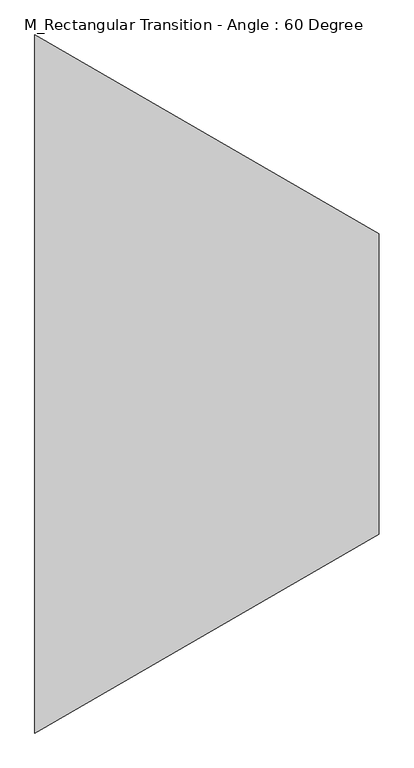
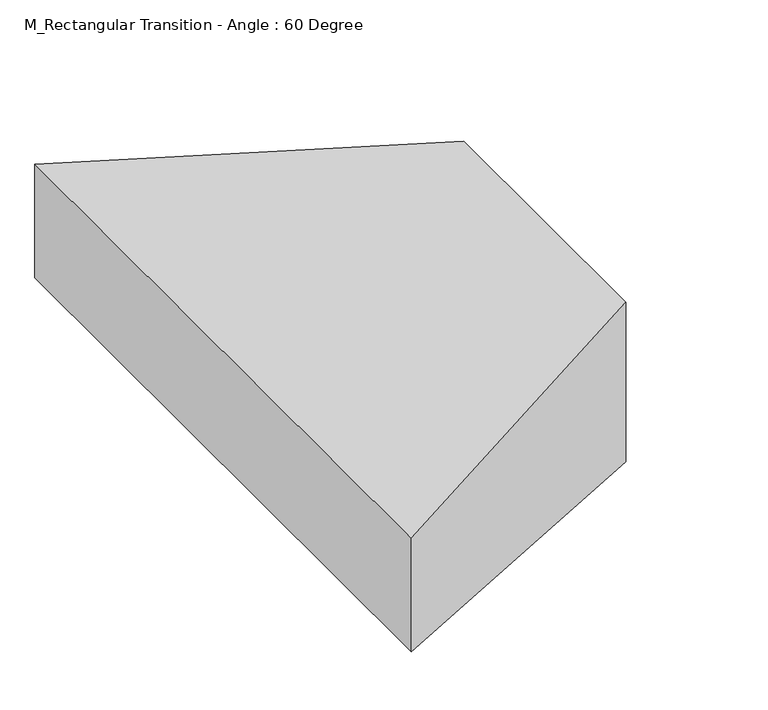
"""IFC4 building model written with IfcOpenShell, lengths in millimetres: duct fitting geometry, M_Rectangular Transition - Angle : 60 Degree."""

import ifcopenshell
import ifcopenshell.guid

model = None  # the IFC model being written
_history = None  # IfcOwnerHistory: only IFC2X3 demands one
_inside = {}  # id of a spatial element -> (the spatial element, [elements in it])
_under = {}  # id of a project, library or spatial element -> (it, [spatial elements below it])
_declared = {}  # id of a project -> (the project, [libraries it declares])
_typed = {}  # id of a type object -> (the type object, [elements of that type])
_made_of = {}  # id of a material, layer set ... -> (it, [elements and type objects made of it])


def new_model(schema):
    """Start an empty IFC model of exactly this schema.

    Asked for "IFC4X3", IfcOpenShell would pick the latest addendum, in which some entities
    have other attributes; the version numbers below select the first issue.
    IFC2X3 requires an IfcOwnerHistory on every rooted entity: one is made here for all.
    """
    global model, _history
    if schema == "IFC4X3":
        model = ifcopenshell.file(schema_version=(4, 3, 0, 0))
    else:
        model = ifcopenshell.file(schema=schema)
    _inside.clear()
    _under.clear()
    _declared.clear()
    _typed.clear()
    _made_of.clear()
    _history = None
    if model.schema == "IFC2X3":
        org = make("IfcOrganization", Name="unknown")
        user = make(
            "IfcPersonAndOrganization",
            ThePerson=make("IfcPerson", FamilyName="unknown"),
            TheOrganization=org,
        )
        app = make(
            "IfcApplication",
            ApplicationDeveloper=org,
            Version="unknown",
            ApplicationFullName="unknown",
            ApplicationIdentifier="unknown",
        )
        _history = make(
            "IfcOwnerHistory",
            OwningUser=user,
            OwningApplication=app,
            ChangeAction="ADDED",
            CreationDate=0,
        )
    return model


def make(cls, **values):
    """One entity of the class cls with the attributes given. An attribute that is None is left unset."""
    return model.create_entity(
        cls, **{name: value for name, value in values.items() if value is not None}
    )


def rooted(cls, **values):
    """An entity with a GlobalId (a new one), such as an element, a storey or a relation."""
    return make(cls, GlobalId=ifcopenshell.guid.new(), OwnerHistory=_history, **values)


def si_unit(unit_type, name, prefix=None):
    """IfcSIUnit, for example si_unit("LENGTHUNIT", "METRE", prefix="MILLI")."""
    return make("IfcSIUnit", UnitType=unit_type, Prefix=prefix, Name=name)


def assignment(units):
    """IfcUnitAssignment: the units of a project."""
    return None if units is None else make("IfcUnitAssignment", Units=units)


def point(xyz):
    """IfcCartesianPoint."""
    return None if xyz is None else make("IfcCartesianPoint", Coordinates=xyz)


def direction(xyz):
    """IfcDirection."""
    return None if xyz is None else make("IfcDirection", DirectionRatios=xyz)


def frame(location, z_axis=None, x_axis=None):
    """IfcAxis2Placement3D, a coordinate frame: its origin and axes. An axis left out is left unset."""
    return make(
        "IfcAxis2Placement3D",
        Location=point(location),
        Axis=direction(z_axis),
        RefDirection=direction(x_axis),
    )


def origin():
    """The frame at (0, 0, 0) with its axes left unset."""
    return frame((0.0, 0.0, 0.0))


def place(relative_to, where):
    """IfcLocalPlacement: puts the frame where relative to a parent placement (None: the world)."""
    return make(
        "IfcLocalPlacement", PlacementRelTo=relative_to, RelativePlacement=where
    )


def context(
    kind, dimensions, precision=None, world=None, true_north=None, identifier=None
):
    """IfcGeometricRepresentationContext, for example the 3D "Model" context."""
    return make(
        "IfcGeometricRepresentationContext",
        ContextIdentifier=identifier,
        ContextType=kind,
        CoordinateSpaceDimension=dimensions,
        Precision=precision,
        WorldCoordinateSystem=world,
        TrueNorth=true_north,
    )


def project(units=None, contexts=None):
    """IfcProject with its units and contexts."""
    return rooted(
        "IfcProject",
        Name="project",
        RepresentationContexts=contexts,
        UnitsInContext=assignment(units),
    )


def spatial(cls, under=None, at=None, **own):
    """A site, building, storey or space (cls), placed at a placement, below another one or the project."""
    s = rooted(cls, ObjectPlacement=at, **own)
    if under is not None:
        _under.setdefault(under.id(), (under, []))[1].append(s)
    return s


def faces_of(points, faces, orient=None, outer=None):
    """IfcFace entities. A face is a list of loops; a loop is a list of indices into points, from 0.

    orient and outer hold one flag for each loop. By default every Orientation is true, the
    first loop of a face is its IfcFaceOuterBound and the others are IfcFaceBound.
    """
    made = []
    for i, loops in enumerate(faces):
        bounds = []
        for j, loop in enumerate(loops):
            is_outer = j == 0 if outer is None else outer[i][j]
            bounds.append(
                make(
                    "IfcFaceOuterBound" if is_outer else "IfcFaceBound",
                    Bound=make("IfcPolyLoop", Polygon=[points[k] for k in loop]),
                    Orientation=True if orient is None else orient[i][j],
                )
            )
        made.append(make("IfcFace", Bounds=bounds))
    return made


def faceted_brep(points, faces, orient=None, outer=None, voids=None):
    """IfcFacetedBrep: a solid bounded by flat faces; with voids (closed shells), ...WithVoids."""
    shared = [point(p) for p in points]
    hull = make("IfcClosedShell", CfsFaces=faces_of(shared, faces, orient, outer))
    if voids is None:
        return make("IfcFacetedBrep", Outer=hull)
    return make(
        "IfcFacetedBrepWithVoids",
        Outer=hull,
        Voids=[
            make(cls, CfsFaces=faces_of(shared, fs, o, b)) for cls, fs, o, b in voids
        ],
    )


def shape(context_of_items, identifier, shape_type, items):
    """IfcShapeRepresentation: the items that make up one representation, for example the "Body"."""
    return make(
        "IfcShapeRepresentation",
        ContextOfItems=context_of_items,
        RepresentationIdentifier=identifier,
        RepresentationType=shape_type,
        Items=items,
    )


def source(mapping_origin, context_of_items, identifier, shape_type, items):
    """IfcRepresentationMap: a shape defined once, which mapped items show again and again."""
    return make(
        "IfcRepresentationMap",
        MappingOrigin=mapping_origin,
        MappedRepresentation=shape(context_of_items, identifier, shape_type, items),
    )


def transform(
    local_origin,
    x_axis=None,
    y_axis=None,
    z_axis=None,
    scale=None,
    scale2=None,
    scale3=None,
    uniform=True,
):
    """IfcCartesianTransformationOperator3D, or its non-uniform kind. x_axis, y_axis, z_axis: its Axis1, 2, 3."""
    if uniform:
        return make(
            "IfcCartesianTransformationOperator3D",
            Axis1=direction(x_axis),
            Axis2=direction(y_axis),
            LocalOrigin=point(local_origin),
            Scale=scale,
            Axis3=direction(z_axis),
        )
    return make(
        "IfcCartesianTransformationOperator3DnonUniform",
        Axis1=direction(x_axis),
        Axis2=direction(y_axis),
        LocalOrigin=point(local_origin),
        Scale=scale,
        Axis3=direction(z_axis),
        Scale2=scale2,
        Scale3=scale3,
    )


def mapped(mapping_source, mapping_target):
    """IfcMappedItem: shows the shape of a source again, moved by a transform."""
    return make(
        "IfcMappedItem", MappingSource=mapping_source, MappingTarget=mapping_target
    )


def made_of(thing, what):
    """Note that an element or type object is made of a material, layer set ...; save() writes the relation."""
    if what is not None:
        _made_of.setdefault(what.id(), (what, []))[1].append(thing)
    return thing


def element(
    cls,
    number,
    at=None,
    inside=None,
    cuts=None,
    type_object=None,
    material=None,
    context=None,
    identifier="Body",
    shape_type=None,
    held_by="IfcProductDefinitionShape",
    body=None,
    shapes=None,
    **own,
):
    """One element of the class cls, such as IfcWall. Its Tag is "e" and its number.

    at: its placement. inside: the storey or other place that contains it. cuts: it is an
    opening in that element (IfcRelVoidsElement). A single representation is given by context,
    identifier, shape_type and body (its items); several are given by shapes. held_by: the class
    of the entity that holds the representations. save() writes the other relations.
    """
    e = rooted(cls, Tag="e%d" % number, ObjectPlacement=at, **own)
    if body is not None:
        shapes = [shape(context, identifier, shape_type, body)]
    if shapes is not None:
        e.Representation = make(held_by, Representations=shapes)
    if inside is not None:
        _inside.setdefault(inside.id(), (inside, []))[1].append(e)
    if cuts is not None:
        rooted(
            "IfcRelVoidsElement", RelatingBuildingElement=cuts, RelatedOpeningElement=e
        )
    if type_object is not None:
        _typed.setdefault(type_object.id(), (type_object, []))[1].append(e)
    return made_of(e, material)


def aggregate(whole, parts):
    """IfcRelAggregates: a whole, such as a stair, and the parts it consists of."""
    return rooted("IfcRelAggregates", RelatingObject=whole, RelatedObjects=parts)


def save(model, path):
    """Write the relations noted so far, then the file.

    IfcRelAggregates (storeys below a building ...), IfcRelContainedInSpatialStructure (elements
    in a storey), IfcRelDefinesByType, IfcRelAssociatesMaterial and IfcRelDeclares: one each for
    every whole, place, type object, material and project.
    """
    for whole, parts in _under.values():
        aggregate(whole, parts)
    for where, things in _inside.values():
        rooted(
            "IfcRelContainedInSpatialStructure",
            RelatedElements=things,
            RelatingStructure=where,
        )
    for kind, things in _typed.values():
        rooted("IfcRelDefinesByType", RelatedObjects=things, RelatingType=kind)
    for what, things in _made_of.values():
        rooted("IfcRelAssociatesMaterial", RelatedObjects=things, RelatingMaterial=what)
    for by, libraries in _declared.values():
        rooted("IfcRelDeclares", RelatingContext=by, RelatedDefinitions=libraries)
    model.write(path)


def m_rectangular_transition_angle_60_degree_b321ac3b(model_context):
    return source(origin(), model_context, "Body", "Brep", [
        faceted_brep([(573.2005641, -250.0, 150.0), (573.2005641, -250.0, -150.0), (573.2005641, 250.0, -150.0), (573.2005641, 250.0, 150.0), (0.0, -580.9375, 107.15), (0.0, 580.9375, 107.15), (0.0, 580.9375, -107.15), (0.0, -580.9375, -107.15)], [[[0, 1, 2, 3]], [[4, 5, 6, 7]], [[4, 7, 1, 0]], [[7, 6, 2, 1]], [[6, 5, 3, 2]], [[5, 4, 0, 3]]]),
    ])


if __name__ == "__main__":
    model = new_model("IFC4")
    model_context = context("Model", 3, world=origin())
    ifc_project = project(units=[si_unit("LENGTHUNIT", "METRE", prefix="MILLI")], contexts=[model_context])
    site = spatial("IfcSite", under=ifc_project)
    building = spatial("IfcBuilding", under=site)
    placement = place(None, origin())
    m_rectangular_transition_angle_60_degree_shape = m_rectangular_transition_angle_60_degree_b321ac3b(model_context)
    element("IfcDuctFitting", 1, ObjectType="M_Rectangular Transition - Angle : 60 Degree", at=placement, inside=building, context=model_context, shape_type="MappedRepresentation", body=[
        mapped(m_rectangular_transition_angle_60_degree_shape, transform((0.0, 0.0, 0.0), x_axis=(1.0, 0.0, 0.0), y_axis=(0.0, 1.0, 0.0), z_axis=(0.0, 0.0, 1.0))),
    ])
    save(model, "model.ifc")
